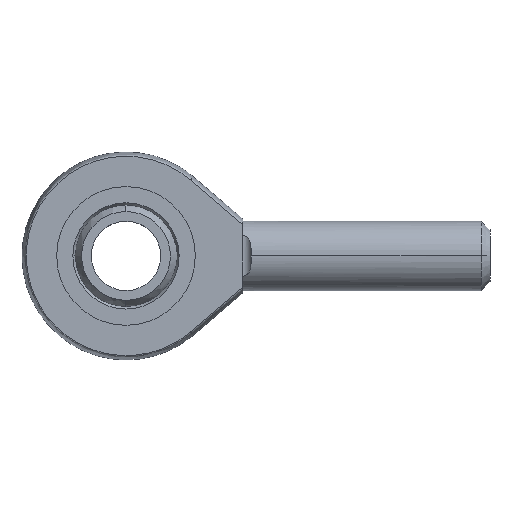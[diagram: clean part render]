
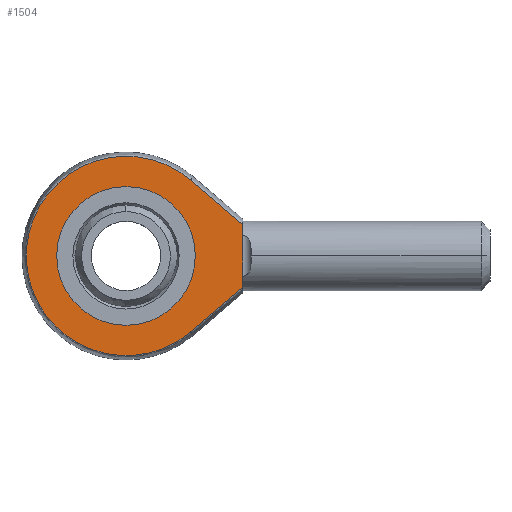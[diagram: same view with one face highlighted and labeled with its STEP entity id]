
A CAD part, top view. The second image highlights one B-rep face of the part: STEP entity #1504.
In plain terms, the highlighted planar face has unit normal (0, 0, 1).
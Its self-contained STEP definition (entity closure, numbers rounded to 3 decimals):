
#24 = ORIENTED_EDGE ( 'NONE', *, *, #287, .T. ) ;
#47 = CARTESIAN_POINT ( 'NONE',  ( -1.5, 0., 6.5 ) ) ;
#64 = ORIENTED_EDGE ( 'NONE', *, *, #494, .F. ) ;
#66 = DIRECTION ( 'NONE',  ( 1., 0., 0. ) ) ;
#75 = B_SPLINE_CURVE_WITH_KNOTS ( 'NONE', 3,
 ( #1238, #248, #98, #240, #493, #994, #613, #733, #361, #749, #1250, #861, #622, #1106, #1632, #1123, #485, #1626, #1129, #503, #1227, #1001, #759, #741, #1499, #367, #1244, #599, #92, #1260, #877, #121, #970, #607 ),
 .UNSPECIFIED., .F., .F.,
 ( 4, 2, 2, 2, 2, 2, 2, 2, 2, 2, 2, 2, 2, 2, 2, 2, 4 ),
 ( 0., 0.063, 0.125, 0.188, 0.25, 0.313, 0.375, 0.438, 0.5, 0.563, 0.625, 0.688, 0.75, 0.813, 0.875, 0.938, 1. ),
 .UNSPECIFIED. ) ;
#76 = CARTESIAN_POINT ( 'NONE',  ( -1.5, 3.619, 6.5 ) ) ;
#92 = CARTESIAN_POINT ( 'NONE',  ( -14.532, -11.543, 6.5 ) ) ;
#98 = CARTESIAN_POINT ( 'NONE',  ( -9.309, 10.053, 6.5 ) ) ;
#114 = EDGE_LOOP ( 'NONE', ( #160, #1251, #1037, #1103, #863, #24 ) ) ;
#121 = CARTESIAN_POINT ( 'NONE',  ( -9.308, -10.053, 6.5 ) ) ;
#160 = ORIENTED_EDGE ( 'NONE', *, *, #1035, .T. ) ;
#176 = VERTEX_POINT ( 'NONE', #1180 ) ;
#179 = CARTESIAN_POINT ( 'NONE',  ( -15., 0., 6.5 ) ) ;
#221 = LINE ( 'NONE', #482, #960 ) ;
#240 = CARTESIAN_POINT ( 'NONE',  ( -11.312, 10.948, 6.5 ) ) ;
#248 = CARTESIAN_POINT ( 'NONE',  ( -8.389, 9.473, 6.5 ) ) ;
#287 = EDGE_CURVE ( 'NONE', #1092, #1028, #1228, .T. ) ;
#331 = EDGE_CURVE ( 'NONE', #461, #1092, #75, .T. ) ;
#353 = CARTESIAN_POINT ( 'NONE',  ( -7.553, 8.763, 6.5 ) ) ;
#361 = CARTESIAN_POINT ( 'NONE',  ( -18.831, 10.898, 6.5 ) ) ;
#367 = CARTESIAN_POINT ( 'NONE',  ( -18.831, -10.898, 6.5 ) ) ;
#396 = LINE ( 'NONE', #47, #964 ) ;
#408 = DIRECTION ( 'NONE',  ( 1., 0., 0. ) ) ;
#432 = PLANE ( 'NONE',  #1005 ) ;
#441 = CARTESIAN_POINT ( 'NONE',  ( -7.553, -8.763, 6.5 ) ) ;
#446 = CARTESIAN_POINT ( 'NONE',  ( -1.5, -3.619, 6.5 ) ) ;
#461 = VERTEX_POINT ( 'NONE', #510 ) ;
#482 = CARTESIAN_POINT ( 'NONE',  ( -1.5, 12.048, 6.5 ) ) ;
#485 = CARTESIAN_POINT ( 'NONE',  ( -26.5, 1.097, 6.5 ) ) ;
#493 = CARTESIAN_POINT ( 'NONE',  ( -12.358, 11.246, 6.5 ) ) ;
#494 = EDGE_CURVE ( 'NONE', #604, #932, #698, .T. ) ;
#503 = CARTESIAN_POINT ( 'NONE',  ( -25.73, -4.28, 6.5 ) ) ;
#510 = CARTESIAN_POINT ( 'NONE',  ( -7.553, 8.763, 6.5 ) ) ;
#530 = EDGE_CURVE ( 'NONE', #176, #1108, #221, .T. ) ;
#561 = DIRECTION ( 'NONE',  ( 0., 0., 1. ) ) ;
#582 = CARTESIAN_POINT ( 'NONE',  ( -1.5, 0., 6.5 ) ) ;
#599 = CARTESIAN_POINT ( 'NONE',  ( -15.619, -11.536, 6.5 ) ) ;
#604 = VERTEX_POINT ( 'NONE', #1242 ) ;
#607 = CARTESIAN_POINT ( 'NONE',  ( -7.553, -8.763, 6.5 ) ) ;
#613 = CARTESIAN_POINT ( 'NONE',  ( -15.619, 11.536, 6.5 ) ) ;
#622 = CARTESIAN_POINT ( 'NONE',  ( -24.098, 7.119, 6.5 ) ) ;
#623 = AXIS2_PLACEMENT_3D ( 'NONE', #1043, #561, #957 ) ;
#692 = AXIS2_PLACEMENT_3D ( 'NONE', #1554, #1545, #408 ) ;
#698 = CIRCLE ( 'NONE', #623, 8. ) ;
#721 = LINE ( 'NONE', #582, #1141 ) ;
#730 = DIRECTION ( 'NONE',  ( 0., -1., 0. ) ) ;
#732 = CARTESIAN_POINT ( 'NONE',  ( -5.535, 7.048, 6.5 ) ) ;
#733 = CARTESIAN_POINT ( 'NONE',  ( -17.79, 11.21, 6.5 ) ) ;
#741 = CARTESIAN_POINT ( 'NONE',  ( -21.735, -9.386, 6.5 ) ) ;
#749 = CARTESIAN_POINT ( 'NONE',  ( -20.823, 9.977, 6.5 ) ) ;
#759 = CARTESIAN_POINT ( 'NONE',  ( -23.389, -7.943, 6.5 ) ) ;
#810 = CARTESIAN_POINT ( 'NONE',  ( -7.553, -8.763, 6.5 ) ) ;
#861 = CARTESIAN_POINT ( 'NONE',  ( -23.389, 7.943, 6.5 ) ) ;
#863 = ORIENTED_EDGE ( 'NONE', *, *, #331, .T. ) ;
#877 = CARTESIAN_POINT ( 'NONE',  ( -11.312, -10.948, 6.5 ) ) ;
#882 = EDGE_CURVE ( 'NONE', #176, #1154, #721, .T. ) ;
#895 = DIRECTION ( 'NONE',  ( 0., 1., 0. ) ) ;
#896 = EDGE_CURVE ( 'NONE', #1154, #461, #1263, .T. ) ;
#932 = VERTEX_POINT ( 'NONE', #1176 ) ;
#941 = EDGE_CURVE ( 'NONE', #932, #604, #1401, .T. ) ;
#944 = FACE_BOUND ( 'NONE', #1306, .T. ) ;
#949 = CARTESIAN_POINT ( 'NONE',  ( -3.518, -5.333, 6.5 ) ) ;
#957 = DIRECTION ( 'NONE',  ( 1., 0., 0. ) ) ;
#960 = VECTOR ( 'NONE', #730, 1000. ) ;
#964 = VECTOR ( 'NONE', #895, 1000. ) ;
#970 = CARTESIAN_POINT ( 'NONE',  ( -8.389, -9.474, 6.5 ) ) ;
#994 = CARTESIAN_POINT ( 'NONE',  ( -14.532, 11.543, 6.5 ) ) ;
#1001 = CARTESIAN_POINT ( 'NONE',  ( -24.098, -7.119, 6.5 ) ) ;
#1005 = AXIS2_PLACEMENT_3D ( 'NONE', #179, #1468, #66 ) ;
#1028 = VERTEX_POINT ( 'NONE', #1301 ) ;
#1035 = EDGE_CURVE ( 'NONE', #1028, #1108, #396, .T. ) ;
#1037 = ORIENTED_EDGE ( 'NONE', *, *, #882, .T. ) ;
#1043 = CARTESIAN_POINT ( 'NONE',  ( -15., 0., 6.5 ) ) ;
#1092 = VERTEX_POINT ( 'NONE', #441 ) ;
#1096 = CARTESIAN_POINT ( 'NONE',  ( -1.5, -2.332, 6.5 ) ) ;
#1103 = ORIENTED_EDGE ( 'NONE', *, *, #896, .T. ) ;
#1105 = CARTESIAN_POINT ( 'NONE',  ( -1.5, 3.619, 6.5 ) ) ;
#1106 = CARTESIAN_POINT ( 'NONE',  ( -25.28, 5.27, 6.5 ) ) ;
#1108 = VERTEX_POINT ( 'NONE', #1096 ) ;
#1123 = CARTESIAN_POINT ( 'NONE',  ( -26.346, 2.174, 6.5 ) ) ;
#1129 = CARTESIAN_POINT ( 'NONE',  ( -26.346, -2.174, 6.5 ) ) ;
#1141 = VECTOR ( 'NONE', #1591, 1000. ) ;
#1154 = VERTEX_POINT ( 'NONE', #76 ) ;
#1176 = CARTESIAN_POINT ( 'NONE',  ( -23., 0., 6.5 ) ) ;
#1180 = CARTESIAN_POINT ( 'NONE',  ( -1.5, 2.332, 6.5 ) ) ;
#1197 = ORIENTED_EDGE ( 'NONE', *, *, #941, .F. ) ;
#1227 = CARTESIAN_POINT ( 'NONE',  ( -25.28, -5.27, 6.5 ) ) ;
#1228 = B_SPLINE_CURVE_WITH_KNOTS ( 'NONE', 3,
 ( #810, #1320, #949, #446 ),
 .UNSPECIFIED., .F., .F.,
 ( 4, 4 ),
 ( 0., 0.801 ),
 .UNSPECIFIED. ) ;
#1238 = CARTESIAN_POINT ( 'NONE',  ( -7.553, 8.763, 6.5 ) ) ;
#1242 = CARTESIAN_POINT ( 'NONE',  ( -7., 0., 6.5 ) ) ;
#1244 = CARTESIAN_POINT ( 'NONE',  ( -17.79, -11.21, 6.5 ) ) ;
#1250 = CARTESIAN_POINT ( 'NONE',  ( -21.735, 9.386, 6.5 ) ) ;
#1251 = ORIENTED_EDGE ( 'NONE', *, *, #530, .F. ) ;
#1260 = CARTESIAN_POINT ( 'NONE',  ( -12.358, -11.246, 6.5 ) ) ;
#1263 = B_SPLINE_CURVE_WITH_KNOTS ( 'NONE', 3,
 ( #1105, #1347, #732, #353 ),
 .UNSPECIFIED., .F., .F.,
 ( 4, 4 ),
 ( 0.199, 1. ),
 .UNSPECIFIED. ) ;
#1301 = CARTESIAN_POINT ( 'NONE',  ( -1.5, -3.619, 6.5 ) ) ;
#1306 = EDGE_LOOP ( 'NONE', ( #1197, #64 ) ) ;
#1320 = CARTESIAN_POINT ( 'NONE',  ( -5.535, -7.048, 6.5 ) ) ;
#1347 = CARTESIAN_POINT ( 'NONE',  ( -3.518, 5.333, 6.5 ) ) ;
#1401 = CIRCLE ( 'NONE', #692, 8. ) ;
#1439 = FACE_OUTER_BOUND ( 'NONE', #114, .T. ) ;
#1468 = DIRECTION ( 'NONE',  ( 0., 0., 1. ) ) ;
#1499 = CARTESIAN_POINT ( 'NONE',  ( -20.823, -9.977, 6.5 ) ) ;
#1504 = ADVANCED_FACE ( 'NONE', ( #1439, #944 ), #432, .T. ) ;
#1545 = DIRECTION ( 'NONE',  ( 0., 0., 1. ) ) ;
#1554 = CARTESIAN_POINT ( 'NONE',  ( -15., 0., 6.5 ) ) ;
#1591 = DIRECTION ( 'NONE',  ( 0., 1., 0. ) ) ;
#1626 = CARTESIAN_POINT ( 'NONE',  ( -26.5, -1.097, 6.5 ) ) ;
#1632 = CARTESIAN_POINT ( 'NONE',  ( -25.73, 4.28, 6.5 ) ) ;
